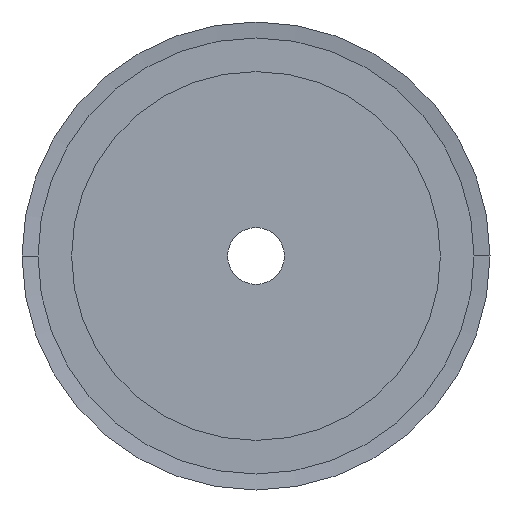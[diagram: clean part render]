
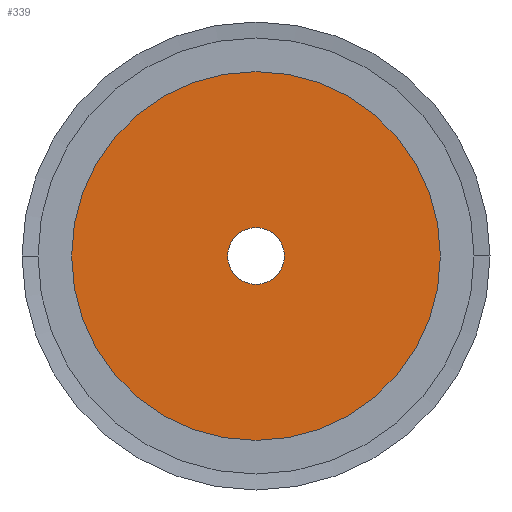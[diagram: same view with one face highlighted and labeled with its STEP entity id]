
A CAD part, left-side view. The second image highlights one B-rep face of the part: STEP entity #339.
In plain terms, the highlighted planar face has unit normal (-1, 0, 0).
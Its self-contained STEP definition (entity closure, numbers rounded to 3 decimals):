
#339 = ADVANCED_FACE( '', ( #873, #874 ), #875, .T. );
#873 = FACE_BOUND( '', #1408, .T. );
#874 = FACE_OUTER_BOUND( '', #1409, .T. );
#875 = PLANE( '', #1410 );
#1408 = EDGE_LOOP( '', ( #3583, #3584 ) );
#1409 = EDGE_LOOP( '', ( #3585, #3586 ) );
#1410 = AXIS2_PLACEMENT_3D( '', #3587, #3588, #3589 );
#3583 = ORIENTED_EDGE( '', *, *, #4276, .F. );
#3584 = ORIENTED_EDGE( '', *, *, #3605, .F. );
#3585 = ORIENTED_EDGE( '', *, *, #3593, .T. );
#3586 = ORIENTED_EDGE( '', *, *, #4281, .T. );
#3587 = CARTESIAN_POINT( '', ( 0., 15., 0. ) );
#3588 = DIRECTION( '', ( -1., 0., 0. ) );
#3589 = DIRECTION( '', ( 0., 1., 0. ) );
#3593 = EDGE_CURVE( '', #4283, #4287, #4289, .T. );
#3605 = EDGE_CURVE( '', #4311, #4307, #4313, .T. );
#4276 = EDGE_CURVE( '', #4307, #4311, #5400, .T. );
#4281 = EDGE_CURVE( '', #4287, #4283, #5405, .T. );
#4283 = VERTEX_POINT( '', #5407 );
#4287 = VERTEX_POINT( '', #5412 );
#4289 = CIRCLE( '', #5415, 26. );
#4307 = VERTEX_POINT( '', #5437 );
#4311 = VERTEX_POINT( '', #5442 );
#4313 = CIRCLE( '', #5445, 4. );
#5400 = CIRCLE( '', #6824, 4. );
#5405 = CIRCLE( '', #6829, 26. );
#5407 = CARTESIAN_POINT( '', ( 0., 26., 0. ) );
#5412 = CARTESIAN_POINT( '', ( 0., -26., 0. ) );
#5415 = AXIS2_PLACEMENT_3D( '', #6835, #6836, #6837 );
#5437 = CARTESIAN_POINT( '', ( 0., 4., 0. ) );
#5442 = CARTESIAN_POINT( '', ( 0., -4., 0. ) );
#5445 = AXIS2_PLACEMENT_3D( '', #6859, #6860, #6861 );
#6824 = AXIS2_PLACEMENT_3D( '', #8288, #8289, #8290 );
#6829 = AXIS2_PLACEMENT_3D( '', #8303, #8304, #8305 );
#6835 = CARTESIAN_POINT( '', ( 0., 0., 0. ) );
#6836 = DIRECTION( '', ( -1., 0., 0. ) );
#6837 = DIRECTION( '', ( 0., 1., 0. ) );
#6859 = CARTESIAN_POINT( '', ( 0., 0., 0. ) );
#6860 = DIRECTION( '', ( -1., 0., 0. ) );
#6861 = DIRECTION( '', ( 0., 1., 0. ) );
#8288 = CARTESIAN_POINT( '', ( 0., 0., 0. ) );
#8289 = DIRECTION( '', ( -1., 0., 0. ) );
#8290 = DIRECTION( '', ( 0., 1., 0. ) );
#8303 = CARTESIAN_POINT( '', ( 0., 0., 0. ) );
#8304 = DIRECTION( '', ( -1., 0., 0. ) );
#8305 = DIRECTION( '', ( 0., 1., 0. ) );
